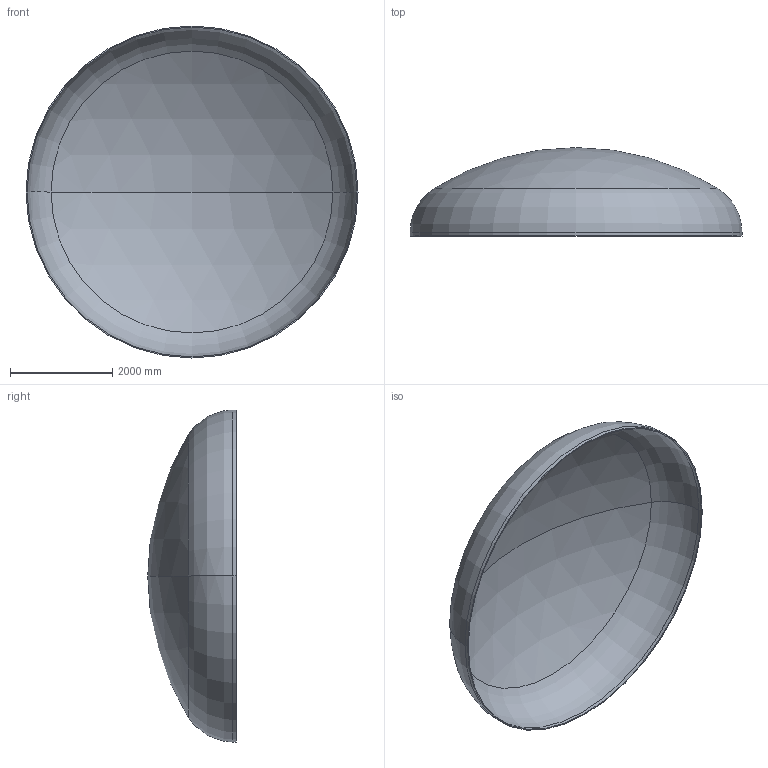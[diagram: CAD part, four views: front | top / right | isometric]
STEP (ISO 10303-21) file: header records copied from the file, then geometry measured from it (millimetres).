
FILE_DESCRIPTION (( 'STEP AP203' ), '1' );
FILE_NAME ('DIN 28013 Korbbogenform_-_Boden DIN 28013 - 6500 x 70 - I - s=21.step', '2016-07-04T10:40:29', ( '' ), ( '' ), 'SwSTEP 2.0', 'SolidWorks 2013', '' );
FILE_SCHEMA (( 'CONFIG_CONTROL_DESIGN' ));
Length unit declared in the file: millimetre
Products named in the file (1): DIN 28013 Korbbogenform_-_Boden DIN 28013 - 6500 x 70 - I - s=21
Bounding box: 6500 x 1731.29 x 6500 mm (x, y, z)
Volume: 990803443.6 mm3; surface area: 94790560.1 mm2
Topology: 1 solids, 1 shells, 13 faces, 24 edges, 14 vertices
Faces by surface type: torus 4, cylinder 4, sphere 4, plane 1
Entity records: 407 total; most frequent: DIRECTION 72, CARTESIAN_POINT 52, ORIENTED_EDGE 48, AXIS2_PLACEMENT_3D 34, EDGE_CURVE 24, CIRCLE 20, VERTEX_POINT 14, EDGE_LOOP 14
